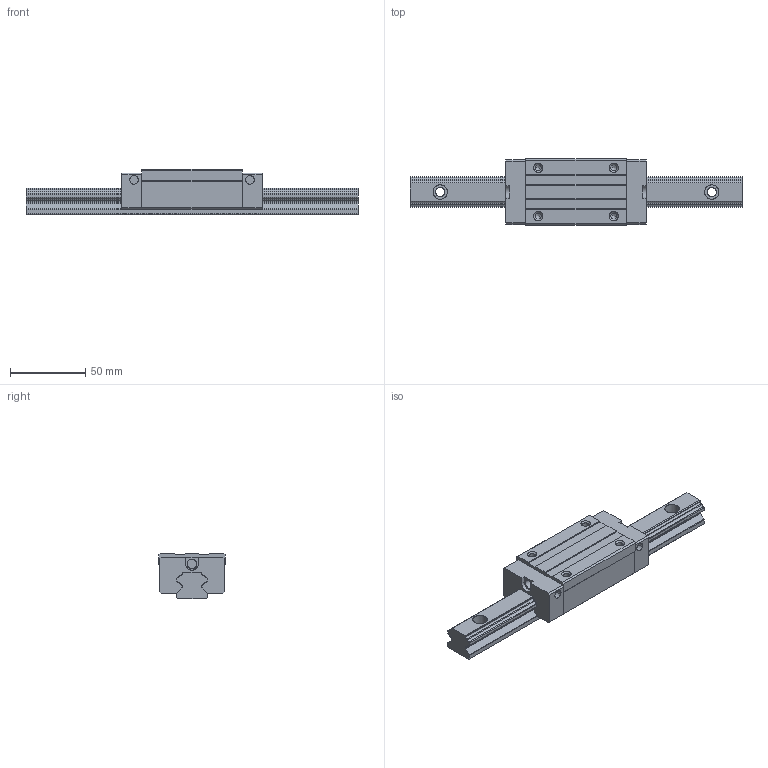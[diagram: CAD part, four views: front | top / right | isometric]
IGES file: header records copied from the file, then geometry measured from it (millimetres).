
Start section: START RECORD GO HERE.
Global section: file name: SBG20_SLL.igs; native system: IBM CATIA IGES - CATIA Version 5 Release 16 ; preprocessor: CATIA Version 5 Release 16 ; author: mycom; organization: RD03; date: 20070228.140834; units: millimetre
Bounding box: 220 x 44 x 30 mm (x, y, z)
Surface area: 41014.3 mm2 (no closed solid volume)
Topology: 0 solids, 0 shells, 255 faces, 1394 edges, 1386 vertices
Faces by surface type: revolution 137, plane 118
